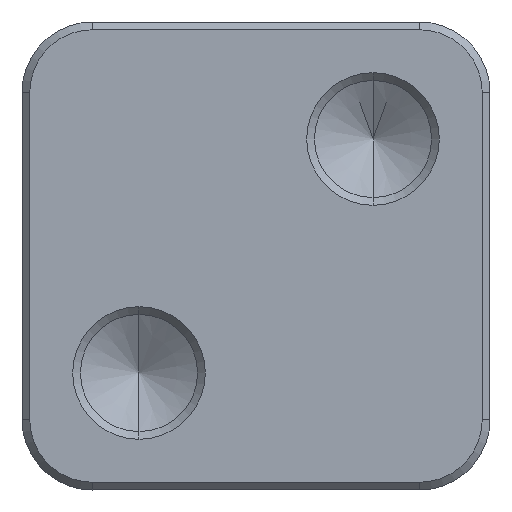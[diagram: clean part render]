
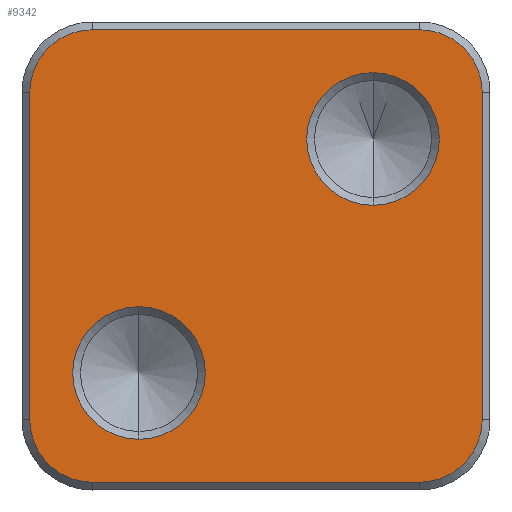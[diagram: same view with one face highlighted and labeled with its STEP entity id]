
A CAD part, front view. The second image highlights one B-rep face of the part: STEP entity #9342.
In plain terms, the highlighted planar face has unit normal (0, -1, 0).
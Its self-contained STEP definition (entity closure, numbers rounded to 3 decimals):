
#60 = DIRECTION ( 'NONE',  ( 0., 0., -1. ) ) ;
#176 = DIRECTION ( 'NONE',  ( 0., 0., 1. ) ) ;
#279 = ORIENTED_EDGE ( 'NONE', *, *, #2377, .F. ) ;
#316 = VERTEX_POINT ( 'NONE', #12288 ) ;
#322 = DIRECTION ( 'NONE',  ( 0., 1., 0. ) ) ;
#396 = VERTEX_POINT ( 'NONE', #10714 ) ;
#442 = VERTEX_POINT ( 'NONE', #828 ) ;
#828 = CARTESIAN_POINT ( 'NONE',  ( -2.5, 0., -3.92 ) ) ;
#835 = CARTESIAN_POINT ( 'NONE',  ( 3.5, 0., -4.836 ) ) ;
#844 = EDGE_CURVE ( 'NONE', #14086, #316, #8532, .T. ) ;
#1365 = CIRCLE ( 'NONE', #8934, 1.333 ) ;
#1709 = EDGE_CURVE ( 'NONE', #8227, #9448, #6016, .T. ) ;
#1869 = ORIENTED_EDGE ( 'NONE', *, *, #14549, .T. ) ;
#2082 = CARTESIAN_POINT ( 'NONE',  ( 3.5, 0., 4.831 ) ) ;
#2165 = EDGE_CURVE ( 'NONE', #12442, #8227, #12747, .T. ) ;
#2301 = AXIS2_PLACEMENT_3D ( 'NONE', #8372, #4803, #11116 ) ;
#2377 = EDGE_CURVE ( 'NONE', #4151, #13273, #13332, .T. ) ;
#2493 = CARTESIAN_POINT ( 'NONE',  ( -2.5, 0., -2.503 ) ) ;
#2783 = EDGE_CURVE ( 'NONE', #442, #3383, #7530, .T. ) ;
#2942 = FACE_BOUND ( 'NONE', #3821, .T. ) ;
#3183 = CARTESIAN_POINT ( 'NONE',  ( -4.833, 0., 3.498 ) ) ;
#3294 = ORIENTED_EDGE ( 'NONE', *, *, #1709, .T. ) ;
#3383 = VERTEX_POINT ( 'NONE', #10816 ) ;
#3402 = VECTOR ( 'NONE', #12837, 1000. ) ;
#3454 = DIRECTION ( 'NONE',  ( 0., 0., 1. ) ) ;
#3489 = DIRECTION ( 'NONE',  ( 1., 0., 0. ) ) ;
#3821 = EDGE_LOOP ( 'NONE', ( #9926, #10682 ) ) ;
#4151 = VERTEX_POINT ( 'NONE', #11079 ) ;
#4206 = FACE_BOUND ( 'NONE', #4647, .T. ) ;
#4378 = CARTESIAN_POINT ( 'NONE',  ( 4.833, 0., -5.003 ) ) ;
#4450 = CARTESIAN_POINT ( 'NONE',  ( 5., 0., 4.831 ) ) ;
#4564 = CARTESIAN_POINT ( 'NONE',  ( 2.5, 0., 2.498 ) ) ;
#4569 = ORIENTED_EDGE ( 'NONE', *, *, #2165, .T. ) ;
#4647 = EDGE_LOOP ( 'NONE', ( #8699, #9713 ) ) ;
#4668 = DIRECTION ( 'NONE',  ( 0., 0., -1. ) ) ;
#4803 = DIRECTION ( 'NONE',  ( 0., -1., 0. ) ) ;
#5469 = EDGE_CURVE ( 'NONE', #14573, #10044, #1365, .T. ) ;
#5575 = ORIENTED_EDGE ( 'NONE', *, *, #12049, .T. ) ;
#5650 = LINE ( 'NONE', #4378, #3402 ) ;
#5912 = DIRECTION ( 'NONE',  ( 0., -1., 0. ) ) ;
#6016 = CIRCLE ( 'NONE', #14847, 1.333 ) ;
#6020 = ORIENTED_EDGE ( 'NONE', *, *, #12829, .T. ) ;
#6331 = EDGE_CURVE ( 'NONE', #10044, #396, #5650, .T. ) ;
#6488 = VECTOR ( 'NONE', #13633, 1000. ) ;
#6500 = DIRECTION ( 'NONE',  ( 0., 0., -1. ) ) ;
#6852 = DIRECTION ( 'NONE',  ( 0., -1., 0. ) ) ;
#7077 = DIRECTION ( 'NONE',  ( 0., 0., -1. ) ) ;
#7093 = VECTOR ( 'NONE', #3489, 1000. ) ;
#7273 = LINE ( 'NONE', #11948, #7093 ) ;
#7396 = CARTESIAN_POINT ( 'NONE',  ( -3.5, 0., 3.498 ) ) ;
#7530 = CIRCLE ( 'NONE', #9801, 1.417 ) ;
#7553 = LINE ( 'NONE', #12532, #6488 ) ;
#7666 = ORIENTED_EDGE ( 'NONE', *, *, #5469, .T. ) ;
#7929 = AXIS2_PLACEMENT_3D ( 'NONE', #12959, #10525, #14150 ) ;
#8015 = CARTESIAN_POINT ( 'NONE',  ( 4.833, 0., -3.503 ) ) ;
#8227 = VERTEX_POINT ( 'NONE', #13671 ) ;
#8372 = CARTESIAN_POINT ( 'NONE',  ( 3.5, 0., 3.498 ) ) ;
#8402 = EDGE_CURVE ( 'NONE', #3383, #442, #11452, .T. ) ;
#8532 = CIRCLE ( 'NONE', #12566, 1.417 ) ;
#8699 = ORIENTED_EDGE ( 'NONE', *, *, #10597, .T. ) ;
#8871 = AXIS2_PLACEMENT_3D ( 'NONE', #14391, #15347, #4668 ) ;
#8934 = AXIS2_PLACEMENT_3D ( 'NONE', #14997, #6852, #11667 ) ;
#9031 = PLANE ( 'NONE',  #15188 ) ;
#9034 = VECTOR ( 'NONE', #14095, 1000. ) ;
#9342 = ADVANCED_FACE ( 'NONE', ( #11243, #2942, #4206 ), #9031, .T. ) ;
#9448 = VERTEX_POINT ( 'NONE', #3183 ) ;
#9713 = ORIENTED_EDGE ( 'NONE', *, *, #844, .T. ) ;
#9801 = AXIS2_PLACEMENT_3D ( 'NONE', #2493, #14586, #7077 ) ;
#9926 = ORIENTED_EDGE ( 'NONE', *, *, #2783, .T. ) ;
#10044 = VERTEX_POINT ( 'NONE', #8015 ) ;
#10525 = DIRECTION ( 'NONE',  ( 0., 1., 0. ) ) ;
#10597 = EDGE_CURVE ( 'NONE', #316, #14086, #12159, .T. ) ;
#10682 = ORIENTED_EDGE ( 'NONE', *, *, #8402, .T. ) ;
#10714 = CARTESIAN_POINT ( 'NONE',  ( 4.833, 0., 3.498 ) ) ;
#10736 = DIRECTION ( 'NONE',  ( 0., 1., 0. ) ) ;
#10816 = CARTESIAN_POINT ( 'NONE',  ( -2.5, 0., -1.086 ) ) ;
#10874 = CIRCLE ( 'NONE', #2301, 1.333 ) ;
#11079 = CARTESIAN_POINT ( 'NONE',  ( -3.5, 0., -4.836 ) ) ;
#11116 = DIRECTION ( 'NONE',  ( 0., 0., 1. ) ) ;
#11243 = FACE_OUTER_BOUND ( 'NONE', #15228, .T. ) ;
#11334 = CARTESIAN_POINT ( 'NONE',  ( -4.833, 0., -3.503 ) ) ;
#11452 = CIRCLE ( 'NONE', #7929, 1.417 ) ;
#11667 = DIRECTION ( 'NONE',  ( 0., 0., 1. ) ) ;
#11812 = AXIS2_PLACEMENT_3D ( 'NONE', #13598, #322, #176 ) ;
#11948 = CARTESIAN_POINT ( 'NONE',  ( 5., 0., -4.836 ) ) ;
#12049 = EDGE_CURVE ( 'NONE', #396, #12442, #10874, .T. ) ;
#12159 = CIRCLE ( 'NONE', #8871, 1.417 ) ;
#12288 = CARTESIAN_POINT ( 'NONE',  ( 2.5, 0., 1.081 ) ) ;
#12428 = DIRECTION ( 'NONE',  ( 0., -1., 0. ) ) ;
#12442 = VERTEX_POINT ( 'NONE', #2082 ) ;
#12532 = CARTESIAN_POINT ( 'NONE',  ( -4.833, 0., -5.003 ) ) ;
#12566 = AXIS2_PLACEMENT_3D ( 'NONE', #4564, #10736, #60 ) ;
#12747 = LINE ( 'NONE', #4450, #9034 ) ;
#12829 = EDGE_CURVE ( 'NONE', #4151, #14573, #7273, .T. ) ;
#12837 = DIRECTION ( 'NONE',  ( 0., 0., 1. ) ) ;
#12959 = CARTESIAN_POINT ( 'NONE',  ( -2.5, 0., -2.503 ) ) ;
#13273 = VERTEX_POINT ( 'NONE', #11334 ) ;
#13332 = CIRCLE ( 'NONE', #11812, 1.333 ) ;
#13598 = CARTESIAN_POINT ( 'NONE',  ( -3.5, 0., -3.503 ) ) ;
#13633 = DIRECTION ( 'NONE',  ( 0., 0., -1. ) ) ;
#13671 = CARTESIAN_POINT ( 'NONE',  ( -3.5, 0., 4.831 ) ) ;
#13848 = CARTESIAN_POINT ( 'NONE',  ( 5., 0., -5.003 ) ) ;
#14086 = VERTEX_POINT ( 'NONE', #14299 ) ;
#14095 = DIRECTION ( 'NONE',  ( -1., 0., 0. ) ) ;
#14150 = DIRECTION ( 'NONE',  ( 0., 0., -1. ) ) ;
#14299 = CARTESIAN_POINT ( 'NONE',  ( 2.5, 0., 3.914 ) ) ;
#14391 = CARTESIAN_POINT ( 'NONE',  ( 2.5, 0., 2.498 ) ) ;
#14549 = EDGE_CURVE ( 'NONE', #9448, #13273, #7553, .T. ) ;
#14573 = VERTEX_POINT ( 'NONE', #835 ) ;
#14586 = DIRECTION ( 'NONE',  ( 0., 1., 0. ) ) ;
#14847 = AXIS2_PLACEMENT_3D ( 'NONE', #7396, #5912, #3454 ) ;
#14997 = CARTESIAN_POINT ( 'NONE',  ( 3.5, 0., -3.503 ) ) ;
#15188 = AXIS2_PLACEMENT_3D ( 'NONE', #13848, #12428, #6500 ) ;
#15228 = EDGE_LOOP ( 'NONE', ( #3294, #1869, #279, #6020, #7666, #15319, #5575, #4569 ) ) ;
#15319 = ORIENTED_EDGE ( 'NONE', *, *, #6331, .T. ) ;
#15347 = DIRECTION ( 'NONE',  ( 0., 1., 0. ) ) ;
